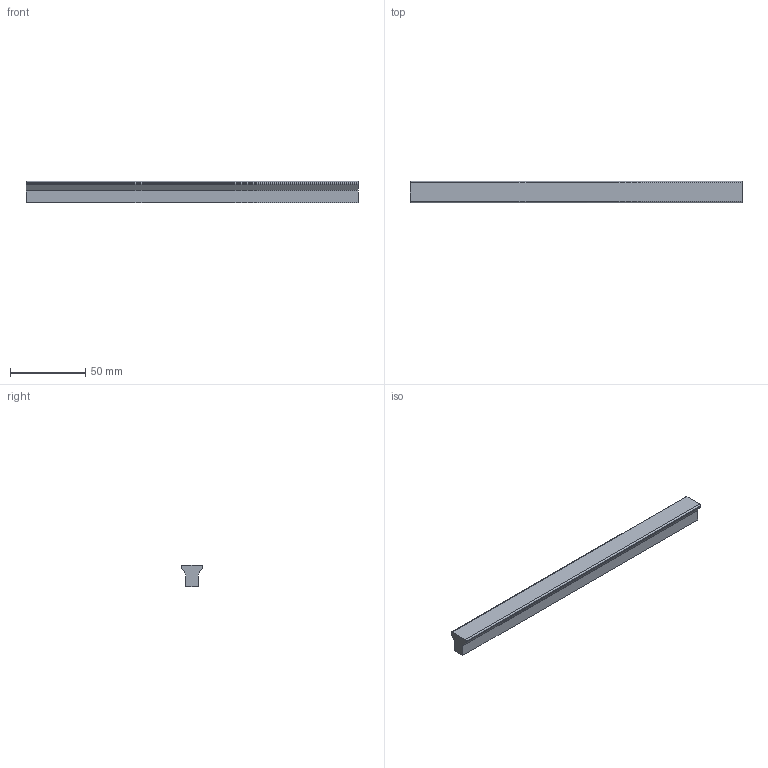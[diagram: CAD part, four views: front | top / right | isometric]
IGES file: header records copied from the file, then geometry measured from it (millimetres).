
Start section: C
Global section: file name: 8193-220.igs; native system: By Siemens PLM Incorporated; preprocessor: XPlus GENERIC/IGES 16.0.42; author: Author; organization: Title; date: 20231116.142948; units: millimetre
Bounding box: 220 x 14 x 14 mm (x, y, z)
Surface area: 11689.1 mm2 (no closed solid volume)
Topology: 0 solids, 0 shells, 20 faces, 104 edges, 104 vertices
Faces by surface type: bspline 20
